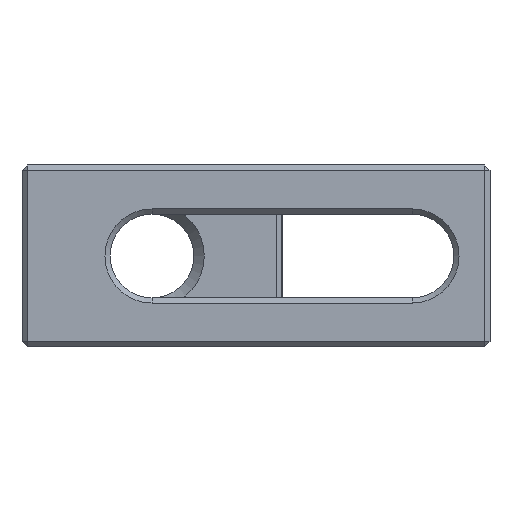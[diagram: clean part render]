
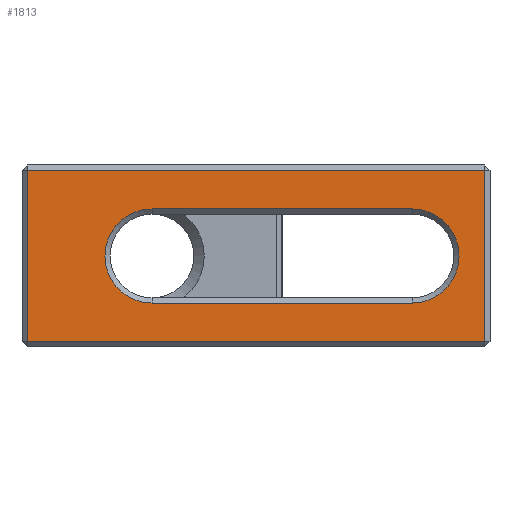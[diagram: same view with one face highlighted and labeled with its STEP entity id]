
A CAD part, front view. The second image highlights one B-rep face of the part: STEP entity #1813.
In plain terms, the highlighted planar face has unit normal (0, -1, 0).
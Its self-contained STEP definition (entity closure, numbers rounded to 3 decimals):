
#66 = ORIENTED_EDGE ( 'NONE', *, *, #2735, .T. ) ;
#70 = DIRECTION ( 'NONE',  ( -1., 0., 0. ) ) ;
#73 = DIRECTION ( 'NONE',  ( 0., 0., 1. ) ) ;
#93 = DIRECTION ( 'NONE',  ( 0., 1., 0. ) ) ;
#99 = CARTESIAN_POINT ( 'NONE',  ( 75., 0., 0. ) ) ;
#135 = LINE ( 'NONE', #825, #2035 ) ;
#165 = CARTESIAN_POINT ( 'NONE',  ( 25., 0., 9.05 ) ) ;
#184 = VERTEX_POINT ( 'NONE', #1051 ) ;
#282 = DIRECTION ( 'NONE',  ( 0., 0., -1. ) ) ;
#630 = ORIENTED_EDGE ( 'NONE', *, *, #921, .T. ) ;
#674 = ORIENTED_EDGE ( 'NONE', *, *, #1847, .T. ) ;
#699 = VECTOR ( 'NONE', #1717, 1000. ) ;
#701 = VECTOR ( 'NONE', #1697, 1000. ) ;
#702 = LINE ( 'NONE', #1701, #701 ) ;
#704 = LINE ( 'NONE', #2078, #699 ) ;
#715 = EDGE_LOOP ( 'NONE', ( #830, #674, #66, #1395 ) ) ;
#742 = CARTESIAN_POINT ( 'NONE',  ( 75., 0., -9.05 ) ) ;
#788 = FACE_BOUND ( 'NONE', #2659, .T. ) ;
#807 = FACE_OUTER_BOUND ( 'NONE', #715, .T. ) ;
#825 = CARTESIAN_POINT ( 'NONE',  ( 1., 0., 17.5 ) ) ;
#830 = ORIENTED_EDGE ( 'NONE', *, *, #1852, .T. ) ;
#886 = EDGE_CURVE ( 'NONE', #1733, #1265, #135, .T. ) ;
#921 = EDGE_CURVE ( 'NONE', #2675, #1642, #2515, .T. ) ;
#946 = CARTESIAN_POINT ( 'NONE',  ( 1., 0., -16.5 ) ) ;
#972 = DIRECTION ( 'NONE',  ( 0., 1., 0. ) ) ;
#1051 = CARTESIAN_POINT ( 'NONE',  ( 75., 0., 9.05 ) ) ;
#1057 = ORIENTED_EDGE ( 'NONE', *, *, #2695, .T. ) ;
#1058 = LINE ( 'NONE', #2237, #2713 ) ;
#1064 = ORIENTED_EDGE ( 'NONE', *, *, #2708, .T. ) ;
#1191 = CARTESIAN_POINT ( 'NONE',  ( 89., 0., -16.5 ) ) ;
#1195 = CARTESIAN_POINT ( 'NONE',  ( 25., 0., 0. ) ) ;
#1251 = ORIENTED_EDGE ( 'NONE', *, *, #2678, .T. ) ;
#1265 = VERTEX_POINT ( 'NONE', #946 ) ;
#1395 = ORIENTED_EDGE ( 'NONE', *, *, #886, .T. ) ;
#1421 = VECTOR ( 'NONE', #2393, 1000. ) ;
#1434 = CARTESIAN_POINT ( 'NONE',  ( 1., 0., 16.5 ) ) ;
#1437 = CARTESIAN_POINT ( 'NONE',  ( 0., 0., -9.05 ) ) ;
#1483 = VERTEX_POINT ( 'NONE', #1191 ) ;
#1496 = LINE ( 'NONE', #1437, #2403 ) ;
#1560 = VERTEX_POINT ( 'NONE', #742 ) ;
#1642 = VERTEX_POINT ( 'NONE', #165 ) ;
#1697 = DIRECTION ( 'NONE',  ( 1., 0., 0. ) ) ;
#1701 = CARTESIAN_POINT ( 'NONE',  ( 0., 0., -16.5 ) ) ;
#1717 = DIRECTION ( 'NONE',  ( 0., 0., 1. ) ) ;
#1733 = VERTEX_POINT ( 'NONE', #1434 ) ;
#1755 = VERTEX_POINT ( 'NONE', #2664 ) ;
#1813 = ADVANCED_FACE ( 'NONE', ( #807, #788 ), #2547, .F. ) ;
#1847 = EDGE_CURVE ( 'NONE', #1483, #1755, #704, .T. ) ;
#1852 = EDGE_CURVE ( 'NONE', #1265, #1483, #702, .T. ) ;
#1870 = LINE ( 'NONE', #2635, #1421 ) ;
#1988 = AXIS2_PLACEMENT_3D ( 'NONE', #99, #93, #73 ) ;
#2026 = AXIS2_PLACEMENT_3D ( 'NONE', #1195, #972, #2285 ) ;
#2035 = VECTOR ( 'NONE', #282, 1000. ) ;
#2063 = CIRCLE ( 'NONE', #1988, 9.05 ) ;
#2078 = CARTESIAN_POINT ( 'NONE',  ( 89., 0., 17.5 ) ) ;
#2165 = AXIS2_PLACEMENT_3D ( 'NONE', #2567, #2585, #2449 ) ;
#2227 = DIRECTION ( 'NONE',  ( 1., 0., 0. ) ) ;
#2237 = CARTESIAN_POINT ( 'NONE',  ( 0., 0., 9.05 ) ) ;
#2285 = DIRECTION ( 'NONE',  ( 0., 0., 1. ) ) ;
#2350 = CARTESIAN_POINT ( 'NONE',  ( 25., 0., -9.05 ) ) ;
#2393 = DIRECTION ( 'NONE',  ( -1., 0., 0. ) ) ;
#2403 = VECTOR ( 'NONE', #70, 1000. ) ;
#2449 = DIRECTION ( 'NONE',  ( 0., 0., 1. ) ) ;
#2515 = CIRCLE ( 'NONE', #2026, 9.05 ) ;
#2547 = PLANE ( 'NONE',  #2165 ) ;
#2567 = CARTESIAN_POINT ( 'NONE',  ( 0., 0., 17.5 ) ) ;
#2585 = DIRECTION ( 'NONE',  ( 0., 1., 0. ) ) ;
#2635 = CARTESIAN_POINT ( 'NONE',  ( 0., 0., 16.5 ) ) ;
#2659 = EDGE_LOOP ( 'NONE', ( #630, #1251, #1057, #1064 ) ) ;
#2664 = CARTESIAN_POINT ( 'NONE',  ( 89., 0., 16.5 ) ) ;
#2675 = VERTEX_POINT ( 'NONE', #2350 ) ;
#2678 = EDGE_CURVE ( 'NONE', #1642, #184, #1058, .T. ) ;
#2695 = EDGE_CURVE ( 'NONE', #184, #1560, #2063, .T. ) ;
#2708 = EDGE_CURVE ( 'NONE', #1560, #2675, #1496, .T. ) ;
#2713 = VECTOR ( 'NONE', #2227, 1000. ) ;
#2735 = EDGE_CURVE ( 'NONE', #1755, #1733, #1870, .T. ) ;
